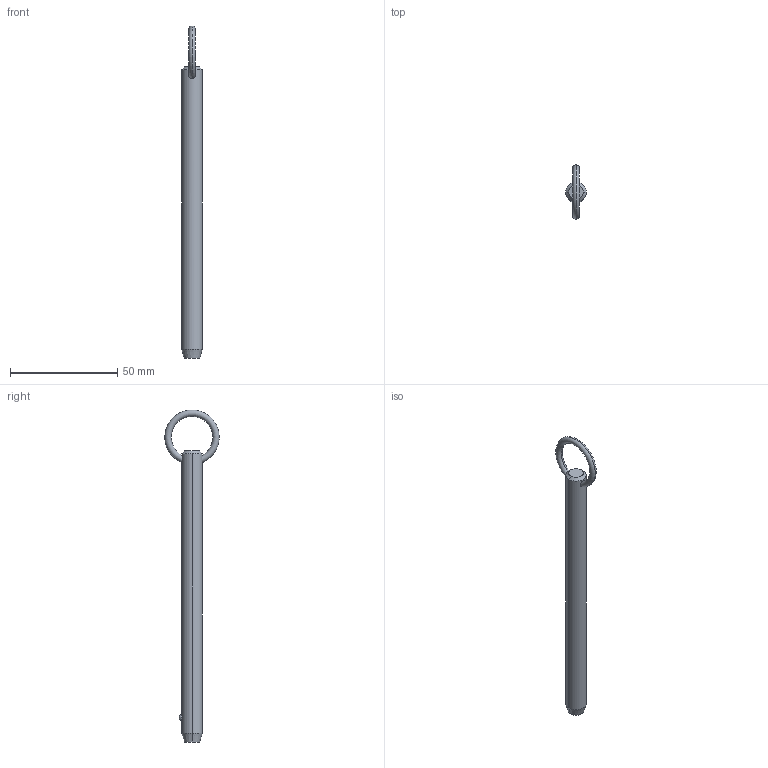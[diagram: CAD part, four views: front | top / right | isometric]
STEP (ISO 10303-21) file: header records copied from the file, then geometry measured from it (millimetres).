
FILE_DESCRIPTION (( 'STEP AP203' ), '1' );
FILE_NAME ('P1250.037-460.step', '2019-07-29T20:11:36', ( '' ), ( '' ), 'SwSTEP 2.0', 'SolidWorks 2017', '' );
FILE_SCHEMA (( 'CONFIG_CONTROL_DESIGN' ));
Length unit declared in the file: millimetre
Products named in the file (1): P1250.037-460
Bounding box: 9.52 x 25.39 x 154.9 mm (x, y, z)
Volume: 10021.1 mm3; surface area: 4705.2 mm2
Topology: 1 solids, 1 shells, 12 faces, 28 edges, 17 vertices
Faces by surface type: cone 4, torus 2, sphere 2, cylinder 2, plane 2
Entity records: 523 total; most frequent: CARTESIAN_POINT 190, DIRECTION 56, ORIENTED_EDGE 48, AXIS2_PLACEMENT_3D 25, EDGE_CURVE 24, VERTEX_POINT 15, EDGE_LOOP 15, FACE_OUTER_BOUND 12
